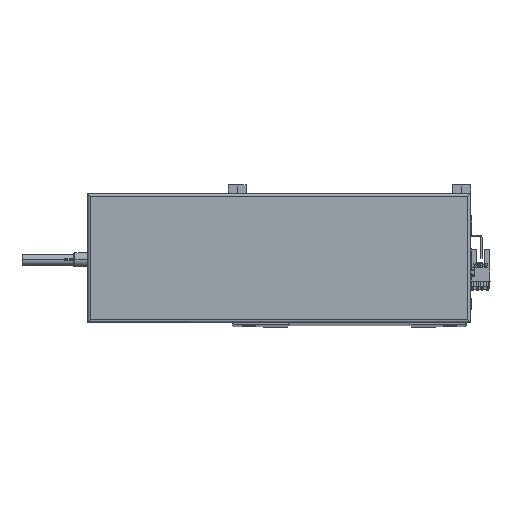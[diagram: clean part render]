
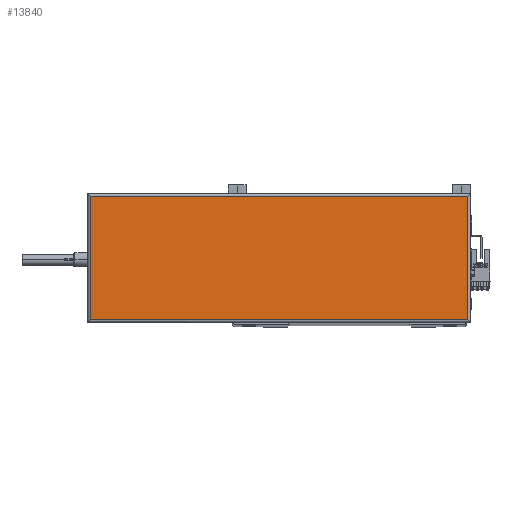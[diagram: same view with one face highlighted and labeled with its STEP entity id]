
A CAD part, top view. The second image highlights one B-rep face of the part: STEP entity #13840.
In plain terms, the highlighted planar face has unit normal (0, 0, 1).
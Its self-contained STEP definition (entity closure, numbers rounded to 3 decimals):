
#1028 = DIRECTION ( 'NONE',  ( 0., 1., 0. ) ) ;
#4029 = ORIENTED_EDGE ( 'NONE', *, *, #39659, .T. ) ;
#5453 = CARTESIAN_POINT ( 'NONE',  ( 265., 90., 44.8 ) ) ;
#5727 = CARTESIAN_POINT ( 'NONE',  ( 2., 88., 44.8 ) ) ;
#10024 = AXIS2_PLACEMENT_3D ( 'NONE', #13370, #41871, #38666 ) ;
#11656 = VECTOR ( 'NONE', #1028, 1000. ) ;
#11940 = CARTESIAN_POINT ( 'NONE',  ( 0., 88., 44.8 ) ) ;
#11944 = ORIENTED_EDGE ( 'NONE', *, *, #13086, .T. ) ;
#12623 = EDGE_CURVE ( 'NONE', #22103, #38978, #50508, .T. ) ;
#12934 = LINE ( 'NONE', #5453, #11656 ) ;
#13086 = EDGE_CURVE ( 'NONE', #45894, #29929, #51129, .T. ) ;
#13370 = CARTESIAN_POINT ( 'NONE',  ( 133.5, 45., 44.8 ) ) ;
#13840 = ADVANCED_FACE ( 'NONE', ( #37860 ), #25335, .T. ) ;
#14924 = DIRECTION ( 'NONE',  ( 0., -1., 0. ) ) ;
#19623 = ORIENTED_EDGE ( 'NONE', *, *, #28549, .T. ) ;
#20049 = VECTOR ( 'NONE', #24235, 1000. ) ;
#20589 = CARTESIAN_POINT ( 'NONE',  ( 2., 2., 44.8 ) ) ;
#22103 = VERTEX_POINT ( 'NONE', #51425 ) ;
#24235 = DIRECTION ( 'NONE',  ( 1., 0., 0. ) ) ;
#25335 = PLANE ( 'NONE',  #10024 ) ;
#28532 = ORIENTED_EDGE ( 'NONE', *, *, #12623, .T. ) ;
#28549 = EDGE_CURVE ( 'NONE', #38978, #45894, #50510, .T. ) ;
#29929 = VERTEX_POINT ( 'NONE', #43419 ) ;
#36890 = DIRECTION ( 'NONE',  ( -1., 0., 0. ) ) ;
#37860 = FACE_OUTER_BOUND ( 'NONE', #48107, .T. ) ;
#37861 = VECTOR ( 'NONE', #14924, 1000. ) ;
#38666 = DIRECTION ( 'NONE',  ( 1., 0., 0. ) ) ;
#38978 = VERTEX_POINT ( 'NONE', #5727 ) ;
#39659 = EDGE_CURVE ( 'NONE', #29929, #22103, #12934, .T. ) ;
#41005 = VECTOR ( 'NONE', #36890, 1000. ) ;
#41871 = DIRECTION ( 'NONE',  ( 0., 0., 1. ) ) ;
#43419 = CARTESIAN_POINT ( 'NONE',  ( 265., 2., 44.8 ) ) ;
#44626 = CARTESIAN_POINT ( 'NONE',  ( 267., 2., 44.8 ) ) ;
#45894 = VERTEX_POINT ( 'NONE', #20589 ) ;
#48107 = EDGE_LOOP ( 'NONE', ( #4029, #28532, #19623, #11944 ) ) ;
#50508 = LINE ( 'NONE', #11940, #41005 ) ;
#50510 = LINE ( 'NONE', #51585, #37861 ) ;
#51129 = LINE ( 'NONE', #44626, #20049 ) ;
#51425 = CARTESIAN_POINT ( 'NONE',  ( 265., 88., 44.8 ) ) ;
#51585 = CARTESIAN_POINT ( 'NONE',  ( 2., 0., 44.8 ) ) ;
